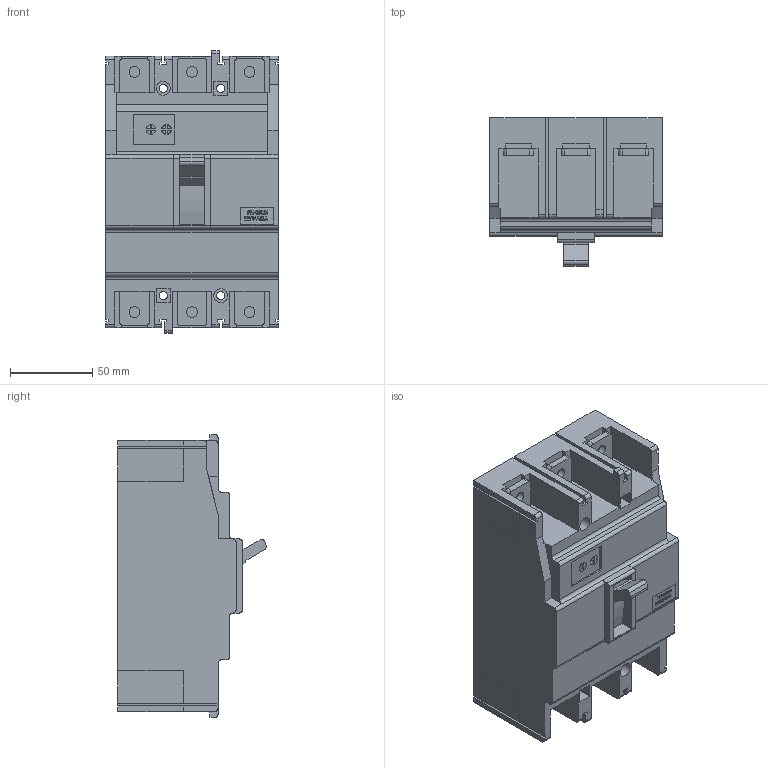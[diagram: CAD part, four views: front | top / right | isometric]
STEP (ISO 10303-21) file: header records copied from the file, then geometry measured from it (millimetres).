
FILE_DESCRIPTION((''),'2;1');
FILE_NAME('E250NJ363','2012-09-20T',('cmahecha'),(''),'PRO/ENGINEER BY PARAMETRIC TECHNOLOGY CORPORATION, 2010280','PRO/ENGINEER BY PARAMETRIC TECHNOLOGY CORPORATION, 2010280','');
FILE_SCHEMA(('CONFIG_CONTROL_DESIGN'));
Length unit declared in the file: millimetre
Products named in the file (1): E250NJ363
Bounding box: 105 x 90.39 x 172 mm (x, y, z)
Volume: 1004743.2 mm3; surface area: 97940.3 mm2
Topology: 1 solids, 1 shells, 636 faces, 1778 edges, 1178 vertices
Faces by surface type: plane 564, cylinder 72
Entity records: 20200 total; most frequent: CARTESIAN_POINT 3592, ORIENTED_EDGE 3556, DIRECTION 3206, EDGE_CURVE 1778, VECTOR 1622, LINE 1622, VERTEX_POINT 1178, AXIS2_PLACEMENT_3D 792
